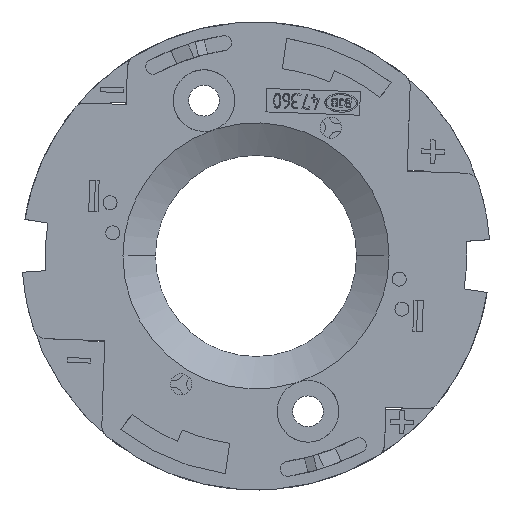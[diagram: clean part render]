
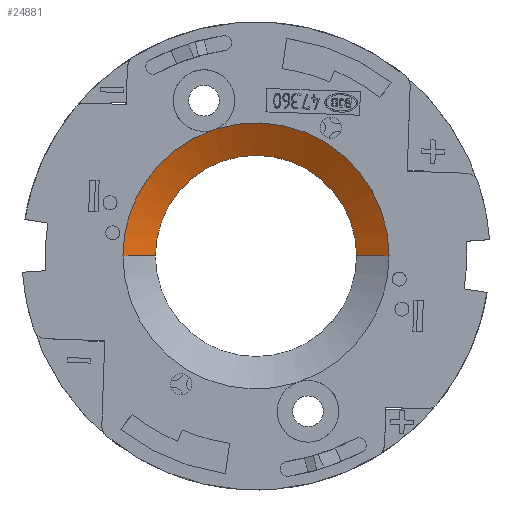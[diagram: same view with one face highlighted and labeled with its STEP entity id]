
A CAD part, top view. The second image highlights one B-rep face of the part: STEP entity #24881.
In plain terms, the highlighted free-form (B-spline) face has degree [7, 1] with [8, 2] control points.
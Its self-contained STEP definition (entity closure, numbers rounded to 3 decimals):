
#14986=CARTESIAN_POINT(' ',(-14.214,0.,3.));
#14987=VERTEX_POINT(' ',#14986);
#15001=CARTESIAN_POINT(' ',(0.,0.,3.));
#15006=DIRECTION(' ',(0.,0.,-1.));
#15011=DIRECTION(' ',(-1.,0.,0.));
#15016=AXIS2_PLACEMENT_3D(' ',#15001,#15006,#15011);
#15021=CIRCLE('',#15016,14.214);
#15026=CARTESIAN_POINT(' ',(-4.77,13.39,3.));
#15027=VERTEX_POINT(' ',#15026);
#15031=EDGE_CURVE(' ',#14987,#15027,#15021,.T.);
#15146=CARTESIAN_POINT(' ',(-4.249,13.564,3.));
#15147=VERTEX_POINT(' ',#15146);
#15161=CARTESIAN_POINT(' ',(0.,0.,3.));
#15166=DIRECTION(' ',(0.,0.,-1.));
#15171=DIRECTION(' ',(-0.299,0.954,0.));
#15176=AXIS2_PLACEMENT_3D(' ',#15161,#15166,#15171);
#15181=CIRCLE('',#15176,14.214);
#15186=CARTESIAN_POINT(' ',(14.214,0.,3.));
#15187=VERTEX_POINT(' ',#15186);
#15191=EDGE_CURVE(' ',#15147,#15187,#15181,.T.);
#24561=CARTESIAN_POINT(' ',(-14.214,0.,3.));
#24566=DIRECTION(' ',(0.866,0.,-0.5));
#24571=VECTOR(' ',#24566,1.);
#24576=LINE('',#24561,#24571);
#24581=CARTESIAN_POINT(' ',(-10.75,0.,1.));
#24582=VERTEX_POINT(' ',#24581);
#24586=EDGE_CURVE(' ',#14987,#24582,#24576,.T.);
#24611=CARTESIAN_POINT(' ',(10.75,0.,1.));
#24616=DIRECTION(' ',(0.866,0.,0.5));
#24621=VECTOR(' ',#24616,1.);
#24626=LINE('',#24611,#24621);
#24631=CARTESIAN_POINT(' ',(10.75,0.,1.));
#24632=VERTEX_POINT(' ',#24631);
#24636=EDGE_CURVE(' ',#24632,#15187,#24626,.T.);
#24696=CARTESIAN_POINT(' ',(14.214,0.,3.));
#24701=CARTESIAN_POINT(' ',(10.75,0.,1.));
#24706=CARTESIAN_POINT(' ',(14.214,6.379,3.));
#24711=CARTESIAN_POINT(' ',(10.75,4.825,1.));
#24716=CARTESIAN_POINT(' ',(10.873,12.753,3.));
#24721=CARTESIAN_POINT(' ',(8.223,9.645,1.));
#24726=CARTESIAN_POINT(' ',(4.199,17.064,3.));
#24731=CARTESIAN_POINT(' ',(3.176,12.905,1.));
#24736=CARTESIAN_POINT(' ',(-4.199,17.064,3.));
#24741=CARTESIAN_POINT(' ',(-3.176,12.905,1.));
#24746=CARTESIAN_POINT(' ',(-10.873,12.753,3.));
#24751=CARTESIAN_POINT(' ',(-8.223,9.645,1.));
#24756=CARTESIAN_POINT(' ',(-14.214,6.379,3.));
#24761=CARTESIAN_POINT(' ',(-10.75,4.825,1.));
#24766=CARTESIAN_POINT(' ',(-14.214,0.,3.));
#24771=CARTESIAN_POINT(' ',(-10.75,0.,1.));
#24776=B_SPLINE_SURFACE_WITH_KNOTS(' ',7,1,((#24696,#24701),(#24706,#24711),(#24716,#24721),(#24726,#24731),(#24736,#24741),(#24746,#24751),(#24756,#24761),(#24766,#24771)),.UNSPECIFIED.,.F.,.F.,.U.,(8,8),(2,2),(0.,1.),(0.,1.),.UNSPECIFIED.);
#24781=ORIENTED_EDGE(' ',*,*,#24586,.T.);
#24786=CARTESIAN_POINT(' ',(0.,0.,1.));
#24791=DIRECTION(' ',(0.,0.,-1.));
#24796=DIRECTION(' ',(-1.,0.,0.));
#24801=AXIS2_PLACEMENT_3D(' ',#24786,#24791,#24796);
#24806=CIRCLE('',#24801,10.75);
#24811=EDGE_CURVE(' ',#24582,#24632,#24806,.T.);
#24816=ORIENTED_EDGE(' ',*,*,#24811,.T.);
#24821=ORIENTED_EDGE(' ',*,*,#24636,.T.);
#24826=ORIENTED_EDGE(' ',*,*,#15191,.F.);
#24831=CARTESIAN_POINT(' ',(-5.202,15.546,4.552));
#24836=DIRECTION(' ',(0.184,-0.55,0.815));
#24841=DIRECTION(' ',(0.16,-0.801,-0.577));
#24846=AXIS2_PLACEMENT_3D(' ',#24831,#24836,#24841);
#24851=CIRCLE('',#24846,2.692);
#24856=EDGE_CURVE(' ',#15027,#15147,#24851,.T.);
#24861=ORIENTED_EDGE(' ',*,*,#24856,.F.);
#24866=ORIENTED_EDGE(' ',*,*,#15031,.F.);
#24871=EDGE_LOOP(' ',(#24781,#24816,#24821,#24826,#24861,#24866));
#24876=FACE_OUTER_BOUND(' ',#24871,.T.);
#24881=ADVANCED_FACE('',(#24876),#24776,.T.);
